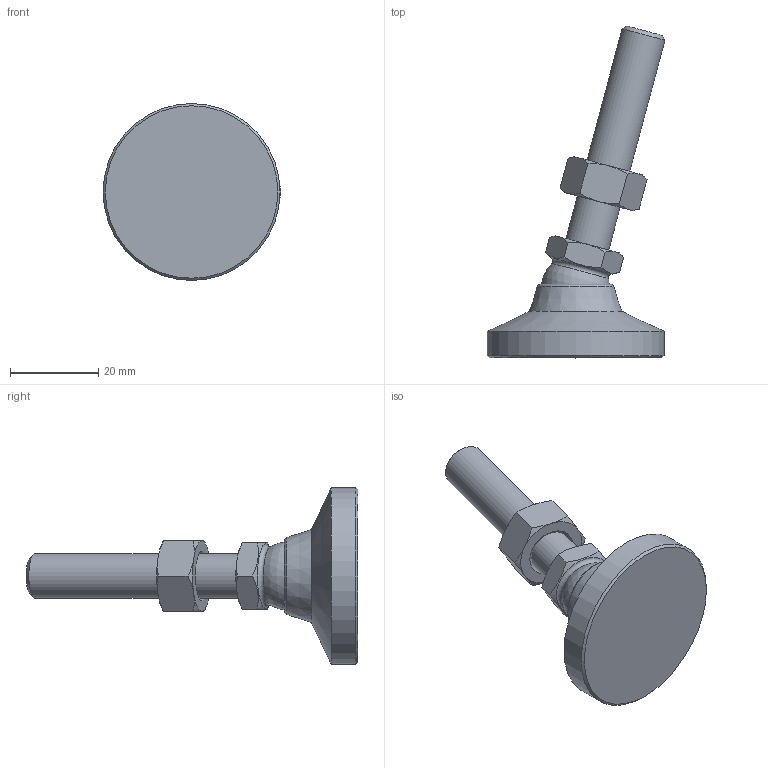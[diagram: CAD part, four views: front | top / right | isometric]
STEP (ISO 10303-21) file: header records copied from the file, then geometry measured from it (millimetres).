
FILE_DESCRIPTION( ( 'STEP AP214' ), ' ' );
FILE_NAME( 'O:/ganter_2015/teil_2/2_5/gn343_2/gn343_2_os/Levelling foot with threaded stud GN 343.2-40-M10-50-OS-(-15).stp', '2015-10-26T09:07:12', ( '' ), ( '' ), ' ', 'PARTsolutions', ' ' );
FILE_SCHEMA( ( 'AUTOMOTIVE_DESIGN { 1 0 10303 214 1 1 1 1 }' ) );
Length unit declared in the file: millimetre
Products named in the file (4): Levelling foot with threaded stud GN 343.2-40-M10-50-OS-(-15); _Levelling foot with threaded stud GN 343.2-40-M10-50-OS-(-15)_foot; _Levelling foot with threaded stud GN 343.2-40-M10-50-OS-(-15)_screw; _Stainless Steel-Levelling feet GN 343.2-40-M10-50-OS-(-15)_nut
Assembly tree (3 placements, depth 2):
  Levelling foot with threaded stud GN 343.2-40-M10-50-OS-(-15)
    _Levelling foot with threaded stud GN 343.2-40-M10-50-OS-(-15)_foot
    _Levelling foot with threaded stud GN 343.2-40-M10-50-OS-(-15)_screw
    _Stainless Steel-Levelling feet GN 343.2-40-M10-50-OS-(-15)_nut
Bounding box: 40.19 x 75.01 x 40 mm (x, y, z)
Volume: 19588.5 mm3; surface area: 7443.3 mm2
Topology: 3 solids, 3 shells, 50 faces, 107 edges, 63 vertices
Faces by surface type: cone 25, plane 18, cylinder 3, torus 2, sphere 2
Full cylindrical faces by diameter (mm): 8.376 x1, 10 x1, 40 x1
Entity records: 1874 total; most frequent: CARTESIAN_POINT 468, DIRECTION 188, ORIENTED_EDGE 176, AXIS2_PLACEMENT_3D 88, EDGE_CURVE 88, EDGE_LOOP 66, VERTEX_POINT 60, FACE_OUTER_BOUND 55
